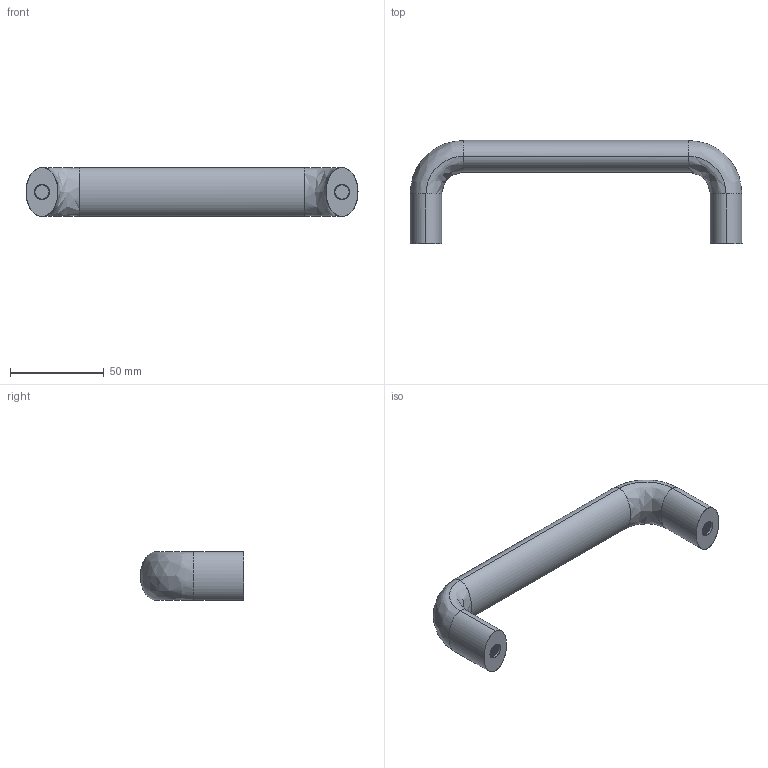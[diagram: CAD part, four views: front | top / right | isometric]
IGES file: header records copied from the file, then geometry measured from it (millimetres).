
Start section: SolidWorks IGES file using analytic representation for surfaces
Global section: file name: C:\Documents and Settings\Deathkiller\桌面\3D IGES\U型把手\MS-740\26\p=160.IGS; native system: SolidWorks 2006 by SolidWorks Corporation; preprocessor: SolidWorks 2006 by SolidWorks Corporation; author: Deathkiller; date: 080624.172529; units: millimetre
Bounding box: 177 x 54.97 x 26 mm (x, y, z)
Surface area: 17515.9 mm2 (no closed solid volume)
Topology: 0 solids, 0 shells, 70 faces, 1626 edges, 1626 vertices
Faces by surface type: revolution 48, bspline 22
